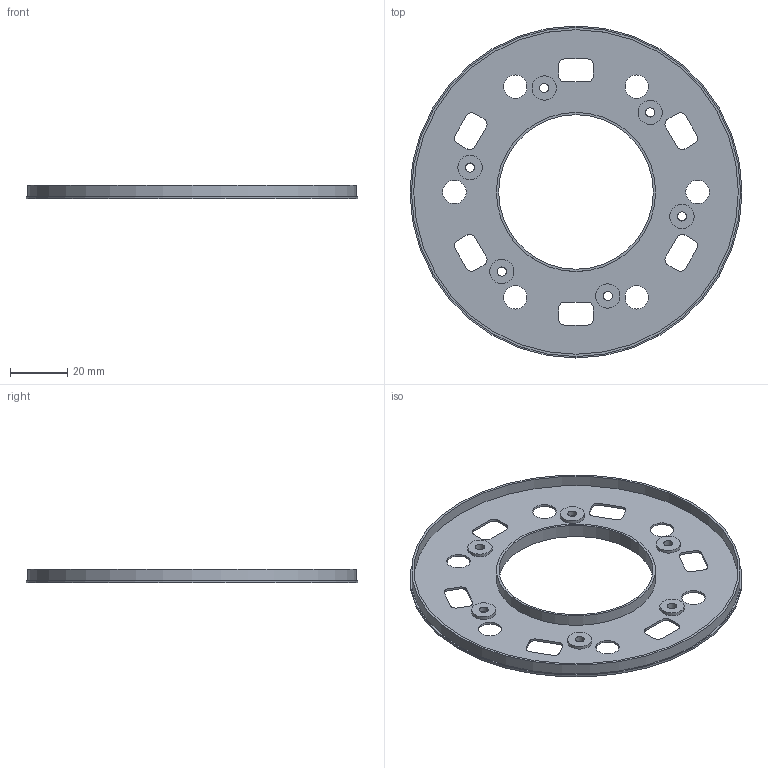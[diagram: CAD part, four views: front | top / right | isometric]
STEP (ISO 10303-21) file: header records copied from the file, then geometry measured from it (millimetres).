
FILE_DESCRIPTION(('Open CASCADE Model'),'2;1');
FILE_NAME('Open CASCADE Shape Model','2026-09-23T03:30:46',('Author'),( 'Open CASCADE'),'Open CASCADE STEP processor 7.9','Open CASCADE 7.9' ,'Unknown');
FILE_SCHEMA(('AUTOMOTIVE_DESIGN { 1 0 10303 214 1 1 1 1 }'));
Length unit declared in the file: millimetre
Products named in the file (1): Open CASCADE STEP translator 7.9 1
Bounding box: 116 x 116 x 4.8 mm (x, y, z)
Volume: 7935.7 mm3; surface area: 20001.9 mm2
Topology: 1 solids, 1 shells, 82 faces, 213 edges, 142 vertices
Faces by surface type: cylinder 47, plane 35
Full cylindrical faces by diameter (mm): 3.2 x6, 8.2 x6, 8.5 x6, 54 x1, 55.6 x1, 113.4 x1, 115 x1, 116 x1
Entity records: 5409 total; most frequent: CARTESIAN_POINT 1158, DIRECTION 770, ORIENTED_EDGE 426, PCURVE 426, DEFINITIONAL_REPRESENTATION 426, LINE 355, VECTOR 355, EDGE_CURVE 213
